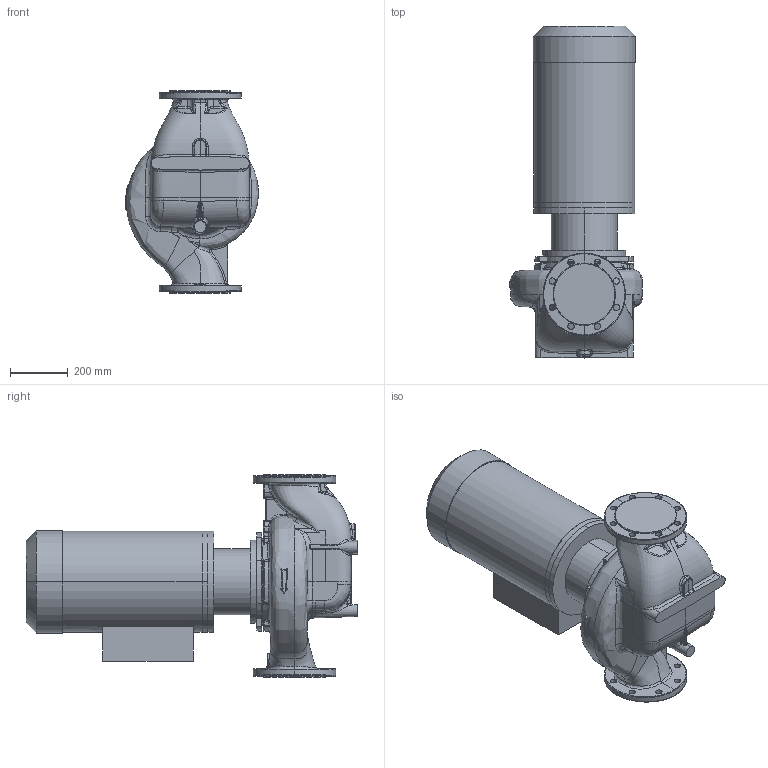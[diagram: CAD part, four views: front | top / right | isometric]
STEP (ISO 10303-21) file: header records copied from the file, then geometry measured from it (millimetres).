
FILE_DESCRIPTION (( 'STEP AP203' ), '1' );
FILE_NAME ('KRL 150-250-4-22.STEP', '2026-04-03T12:40:47', ( '' ), ( '' ), 'SwSTEP 2.0', 'SolidWorks 2016', '' );
FILE_SCHEMA (( 'CONFIG_CONTROL_DESIGN' ));
Length unit declared in the file: millimetre
Products named in the file (1): KRL 150-250-4-22
Bounding box: 460.33 x 1149.8 x 700 mm (x, y, z)
Volume: 126611554.3 mm3; surface area: 2699422.3 mm2
Topology: 9 solids, 9 shells, 707 faces, 1732 edges, 1026 vertices
Faces by surface type: bspline 385, cylinder 136, plane 128, cone 42, torus 9, sphere 7
Entity records: 72506 total; most frequent: CARTESIAN_POINT 59397, ORIENTED_EDGE 3392, DIRECTION 1779, EDGE_CURVE 1696, VERTEX_POINT 1026, B_SPLINE_CURVE_WITH_KNOTS 808, EDGE_LOOP 758, AXIS2_PLACEMENT_3D 748
